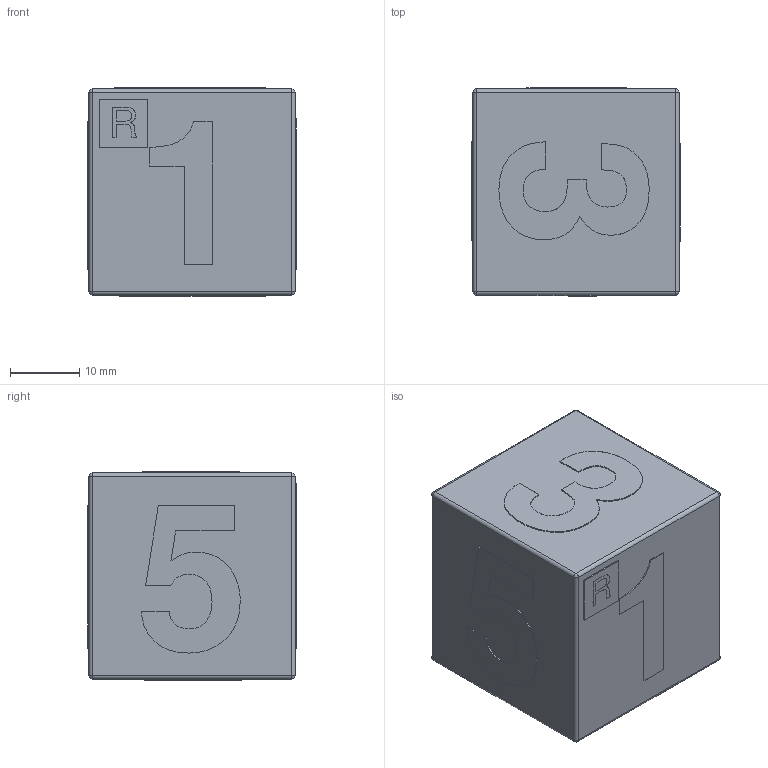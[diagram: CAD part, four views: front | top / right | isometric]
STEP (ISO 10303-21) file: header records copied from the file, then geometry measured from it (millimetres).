
FILE_DESCRIPTION(('Open CASCADE Model'),'2;1');
FILE_NAME('Open CASCADE Shape Model','2025-09-14T20:47:16',('Author'),( 'Open CASCADE'),'Open CASCADE STEP processor 7.8','Open CASCADE 7.8' ,'Unknown');
FILE_SCHEMA(('AUTOMOTIVE_DESIGN { 1 0 10303 214 1 1 1 1 }'));
Length unit declared in the file: millimetre
Products named in the file (20): 9d9c24de-91a3-11f0-88d2-1c1b0deae66b; 9d9c2682-91a3-11f0-88d2-1c1b0deae66b; 9d9c2682-91a3-11f0-88d2-1c1b0deae66b_part; 9d9ef358-91a3-11f0-88d2-1c1b0deae66b; 9d9ef358-91a3-11f0-88d2-1c1b0deae66b_part; 9da0eb72-91a3-11f0-88d2-1c1b0deae66b; 9da0eb72-91a3-11f0-88d2-1c1b0deae66b_part; 9da23770-91a3-11f0-88d2-1c1b0deae66b; 9da23770-91a3-11f0-88d2-1c1b0deae66b_part; 9da3a088-91a3-11f0-88d2-1c1b0deae66b; 9da3a088-91a3-11f0-88d2-1c1b0deae66b_part; 9da5430c-91a3-11f0-88d2-1c1b0deae66b; 9da5430c-91a3-11f0-88d2-1c1b0deae66b_part; 9da6b8f4-91a3-11f0-88d2-1c1b0deae66b; 9da6b8f4-91a3-11f0-88d2-1c1b0deae66b_part; 9db42caa-91a3-11f0-88d2-1c1b0deae66b; 9db42caa-91a3-11f0-88d2-1c1b0deae66b_part; 9db42e30-91a3-11f0-88d2-1c1b0deae66b; 9db42e30-91a3-11f0-88d2-1c1b0deae66b_part
Assembly tree (19 placements, depth 4):
  9d9c24de-91a3-11f0-88d2-1c1b0deae66b
    9d9c24de-91a3-11f0-88d2-1c1b0deae66b
      9d9c2682-91a3-11f0-88d2-1c1b0deae66b
        9d9c2682-91a3-11f0-88d2-1c1b0deae66b_part
      9d9ef358-91a3-11f0-88d2-1c1b0deae66b
        9d9ef358-91a3-11f0-88d2-1c1b0deae66b_part
      9da0eb72-91a3-11f0-88d2-1c1b0deae66b
        9da0eb72-91a3-11f0-88d2-1c1b0deae66b_part
      9da23770-91a3-11f0-88d2-1c1b0deae66b
        9da23770-91a3-11f0-88d2-1c1b0deae66b_part
      9da3a088-91a3-11f0-88d2-1c1b0deae66b
        9da3a088-91a3-11f0-88d2-1c1b0deae66b_part
      9da5430c-91a3-11f0-88d2-1c1b0deae66b
        9da5430c-91a3-11f0-88d2-1c1b0deae66b_part
      9da6b8f4-91a3-11f0-88d2-1c1b0deae66b
        9da6b8f4-91a3-11f0-88d2-1c1b0deae66b_part
      9db42caa-91a3-11f0-88d2-1c1b0deae66b
        9db42caa-91a3-11f0-88d2-1c1b0deae66b_part
      9db42e30-91a3-11f0-88d2-1c1b0deae66b
        9db42e30-91a3-11f0-88d2-1c1b0deae66b_part
Bounding box: 30 x 30 x 30 mm (x, y, z)
Volume: 26325.1 mm3; surface area: 7255.1 mm2
Topology: 10 solids, 10 shells, 238 faces, 638 edges, 412 vertices
Faces by surface type: extrusion 118, plane 100, cylinder 12, sphere 8
Entity records: 16031 total; most frequent: CARTESIAN_POINT 3772, DIRECTION 1808, VECTOR 1480, LINE 1362, ORIENTED_EDGE 1260, PCURVE 1260, DEFINITIONAL_REPRESENTATION 1260, EDGE_CURVE 630
